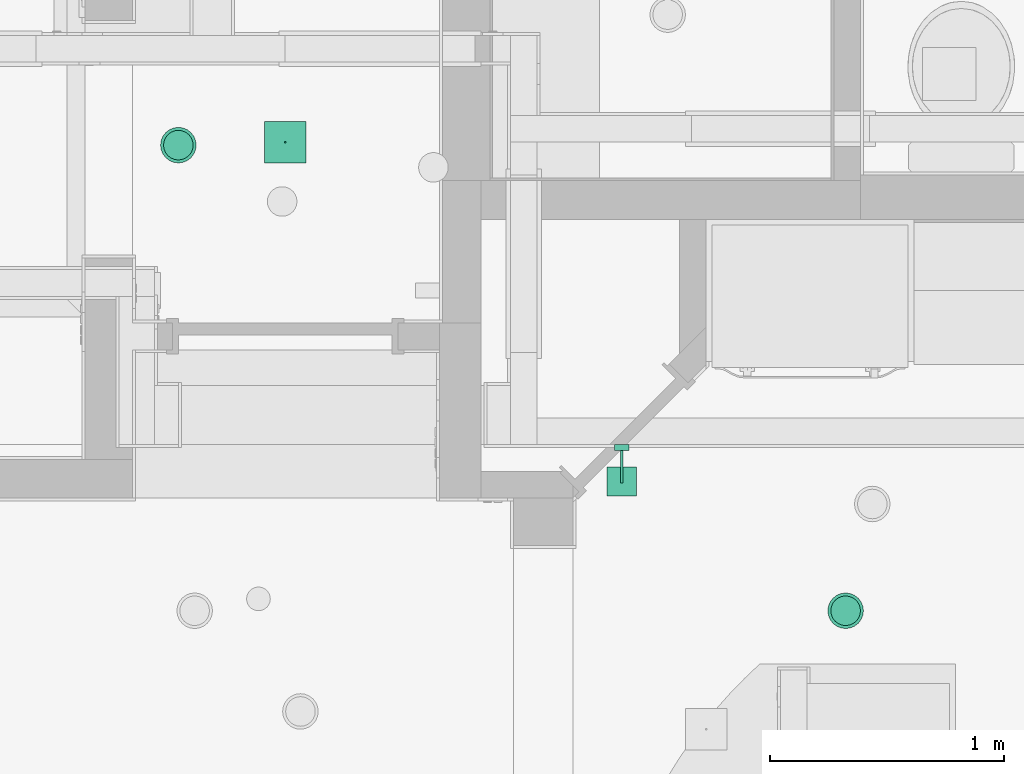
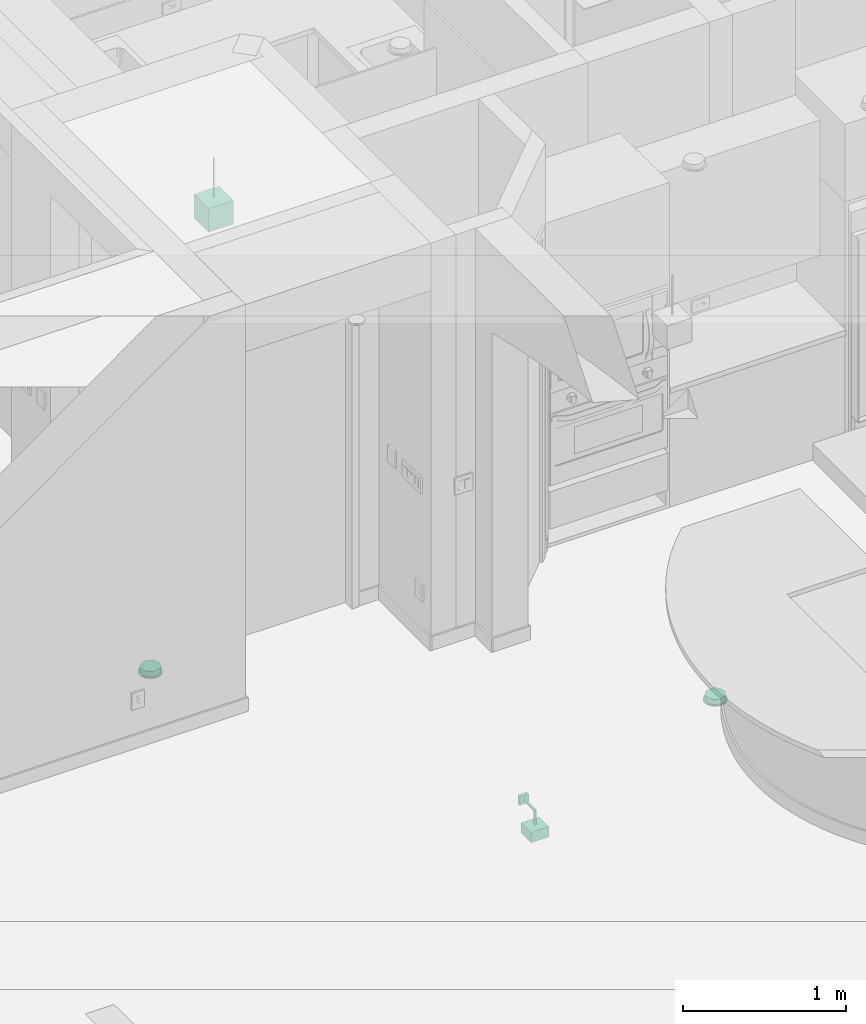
# One storey, part 39 of 60: 4 flow terminals.
"""IFC2X3 building model written with IfcOpenShell, lengths in feet."""

from ifc_helpers import new_model, entity, si_unit, converted_unit, direction, frame, origin, origin_2d_with_axis, place, context, subcontext, project, spatial, rectangle, extrude, faceted_brep, source, transform, mapped, material, material_list, type_object, type_shapes, element, save


model = new_model("IFC2X3")

# Units and contexts
model_context = context("Model", 3, precision=0.0001, world=origin(), true_north=direction((6.123031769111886e-17, 1.0)))
plan_context = context("Plan", 3, precision=0.0001, world=origin(), true_north=direction((6.123031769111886e-17, 1.0)))
body_context = subcontext(model_context, "Body", "Model", "MODEL_VIEW")
ifc_project = project(units=[converted_unit("LENGTHUNIT", "FOOT", entity("IfcLengthMeasure", 0.3048), si_unit("LENGTHUNIT", "METRE"), dimensions=[1, 0, 0, 0, 0, 0, 0]), converted_unit("AREAUNIT", "SQUARE FOOT", entity("IfcAreaMeasure", 0.09290304), si_unit("AREAUNIT", "SQUARE_METRE"), dimensions=[2, 0, 0, 0, 0, 0, 0]), converted_unit("PLANEANGLEUNIT", "DEGREE", entity("IfcPlaneAngleMeasure", 0.017453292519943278), si_unit("PLANEANGLEUNIT", "RADIAN"), dimensions=[0, 0, 0, 0, 0, 0, 0])], contexts=[model_context, plan_context])

# Site, building, storey
site_placement = place(None, origin())
site = spatial("IfcSite", under=ifc_project, at=site_placement, Name="Default", CompositionType="ELEMENT")
building_placement = place(site_placement, origin())
building = spatial("IfcBuilding", under=site, at=building_placement, CompositionType="ELEMENT")
storey_placement = place(building_placement, origin())
storey = spatial("IfcBuildingStorey", under=building, at=storey_placement, Name="First floor", CompositionType="ELEMENT", Elevation=0.0)

# Flow terminals
ifc_material_1 = material(Name="Default New Material")
ifc_material_2 = material(Name="Glass, White, High Luminance")
ifc_material_list = material_list([ifc_material_1, ifc_material_2])
light_fixture_type_1 = type_object("IfcLightFixtureType", Name="C_Spotlight Recessed:Light 2", PredefinedType="NOTDEFINED", material=ifc_material_list)
shared_shape_1 = source(origin(), body_context, "Body", "Brep", [
    faceted_brep([(-0.12499999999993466, 0.21650635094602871, 0.020833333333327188), (-0.17677669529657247, 0.17677669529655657, 0.020833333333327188), (-0.08333333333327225, 0.14433756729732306, 0.020833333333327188), (-0.04313650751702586, 0.1609876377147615, 0.020833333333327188), (-0.0647047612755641, 0.24148145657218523, 0.020833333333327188), (-0.11785113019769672, 0.11785113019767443, 0.020833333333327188), (-0.21650635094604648, 0.12499999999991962, 0.020833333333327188), (-0.1443375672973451, 0.08333333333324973, 0.020833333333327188), (-0.16098763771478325, 0.04313650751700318, 0.020833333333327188), (-0.2414814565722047, 0.06470476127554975, 0.020833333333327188), (-0.166666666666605, 0.0, 0.020833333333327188), (-0.24999999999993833, 0.0, 0.020833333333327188), (-0.16098763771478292, -0.043136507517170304, 0.020833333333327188), (-0.24148145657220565, -0.06470476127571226, 0.020833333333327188), (-0.14433756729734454, -0.08333333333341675, 0.020833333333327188), (-0.2165063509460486, -0.12500000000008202, 0.020833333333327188), (-0.117851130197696, -0.11785113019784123, 0.020833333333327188), (-0.1767766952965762, -0.17677669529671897, 0.020833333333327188), (-0.08333333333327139, -0.14433756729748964, 0.020833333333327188), (-0.12499999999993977, -0.21650635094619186, 0.020833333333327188), (-0.04313650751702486, -0.16098763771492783, 0.020833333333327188), (-0.06470476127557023, -0.24148145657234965, 0.020833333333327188), (0.0, -0.1666666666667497, 0.020833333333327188), (0.0, -0.25000000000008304, 0.020833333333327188), (0.04313650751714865, -0.1609876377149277, 0.020833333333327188), (0.06470476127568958, -0.24148145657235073, 0.020833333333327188), (0.08333333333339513, -0.1443375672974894, 0.020833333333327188), (0.12500000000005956, -0.21650635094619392, 0.020833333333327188), (0.11785113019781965, -0.11785113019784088, 0.020833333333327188), (0.1767766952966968, -0.1767766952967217, 0.020833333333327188), (0.14433756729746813, -0.0833333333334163, 0.020833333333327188), (0.21650635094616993, -0.12500000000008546, 0.020833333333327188), (0.24148145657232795, -0.06470476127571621, 0.020833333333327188), (0.16098763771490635, -0.0431365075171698, 0.020833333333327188), (0.2500000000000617, 0.0, 0.020833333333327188), (0.1666666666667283, 0.0, 0.020833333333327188), (0.24148145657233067, 0.06470476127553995, 0.020833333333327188), (0.16098763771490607, 0.04313650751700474, 0.020833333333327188), (0.21650635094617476, 0.12499999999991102, 0.020833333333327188), (0.14433756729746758, 0.08333333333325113, 0.020833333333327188), (0.17677669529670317, 0.17677669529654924, 0.020833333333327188), (0.1178511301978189, 0.11785113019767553, 0.020833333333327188), (0.1250000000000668, 0.21650635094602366, 0.020833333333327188), (0.08333333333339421, 0.14433756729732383, 0.020833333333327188), (0.06470476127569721, 0.2414814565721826, 0.020833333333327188), (0.04313650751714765, 0.16098763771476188, 0.020833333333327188), (0.0, 0.24999999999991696, 0.020833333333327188), (0.0, 0.1666666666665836, 0.020833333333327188), (-0.12499999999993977, -0.21650635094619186, 0.0), (-0.1767766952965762, -0.17677669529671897, 0.0), (-0.08333333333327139, -0.14433756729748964, 0.0), (-0.04313650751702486, -0.16098763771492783, 0.0), (-0.06470476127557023, -0.24148145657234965, 0.0), (-0.117851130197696, -0.11785113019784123, 0.0), (-0.2165063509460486, -0.12500000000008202, 0.0), (-0.14433756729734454, -0.08333333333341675, 0.0), (-0.16098763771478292, -0.043136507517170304, 0.0), (-0.24148145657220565, -0.06470476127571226, 0.0), (-0.166666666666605, 0.0, 0.0), (-0.24999999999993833, 0.0, 0.0), (-0.16098763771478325, 0.04313650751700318, 0.0), (-0.2414814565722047, 0.06470476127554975, 0.0), (-0.1443375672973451, 0.08333333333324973, 0.0), (-0.21650635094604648, 0.12499999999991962, 0.0), (-0.11785113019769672, 0.11785113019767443, 0.0), (-0.17677669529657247, 0.17677669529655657, 0.0), (-0.08333333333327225, 0.14433756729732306, 0.0), (-0.12499999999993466, 0.21650635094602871, 0.0), (-0.04313650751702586, 0.1609876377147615, 0.0), (-0.0647047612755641, 0.24148145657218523, 0.0), (0.0, 0.1666666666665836, 0.0), (0.0, 0.24999999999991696, 0.0), (0.04313650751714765, 0.16098763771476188, 0.0), (0.06470476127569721, 0.2414814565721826, 0.0), (0.08333333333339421, 0.14433756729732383, 0.0), (0.1250000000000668, 0.21650635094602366, 0.0), (0.1178511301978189, 0.11785113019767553, 0.0), (0.17677669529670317, 0.17677669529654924, 0.0), (0.14433756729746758, 0.08333333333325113, 0.0), (0.21650635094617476, 0.12499999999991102, 0.0), (0.24148145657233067, 0.06470476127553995, 0.0), (0.16098763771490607, 0.04313650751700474, 0.0), (0.2500000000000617, 0.0, 0.0), (0.1666666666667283, 0.0, 0.0), (0.24148145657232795, -0.06470476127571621, 0.0), (0.16098763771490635, -0.0431365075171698, 0.0), (0.21650635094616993, -0.12500000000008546, 0.0), (0.14433756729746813, -0.0833333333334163, 0.0), (0.1767766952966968, -0.1767766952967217, 0.0), (0.11785113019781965, -0.11785113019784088, 0.0), (0.12500000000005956, -0.21650635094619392, 0.0), (0.08333333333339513, -0.1443375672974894, 0.0), (0.06470476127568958, -0.24148145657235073, 0.0), (0.04313650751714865, -0.1609876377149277, 0.0), (0.0, -0.25000000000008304, 0.0), (0.0, -0.1666666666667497, 0.0)], [[[0, 1, 2]], [[0, 2, 3]], [[3, 4, 0]], [[2, 1, 5]], [[6, 5, 1]], [[7, 5, 6]], [[8, 7, 6]], [[8, 6, 9]], [[8, 9, 10]], [[10, 9, 11]], [[12, 10, 11]], [[12, 11, 13]], [[14, 12, 13]], [[14, 13, 15]], [[16, 14, 15]], [[15, 17, 16]], [[17, 18, 16]], [[18, 17, 19]], [[18, 19, 20]], [[21, 20, 19]], [[20, 21, 22]], [[22, 21, 23]], [[23, 24, 22]], [[24, 23, 25]], [[24, 25, 26]], [[27, 26, 25]], [[27, 28, 26]], [[27, 29, 28]], [[30, 28, 29]], [[31, 30, 29]], [[32, 30, 31]], [[33, 30, 32]], [[33, 32, 34]], [[34, 35, 33]], [[36, 35, 34]], [[36, 37, 35]], [[37, 36, 38]], [[39, 37, 38]], [[39, 38, 40]], [[39, 40, 41]], [[40, 42, 41]], [[41, 42, 43]], [[43, 42, 44]], [[44, 45, 43]], [[46, 45, 44]], [[4, 47, 46]], [[45, 46, 47]], [[4, 3, 47]], [[48, 49, 50]], [[48, 50, 51]], [[51, 52, 48]], [[50, 49, 53]], [[54, 53, 49]], [[55, 53, 54]], [[56, 55, 54]], [[56, 54, 57]], [[56, 57, 58]], [[58, 57, 59]], [[60, 58, 59]], [[60, 59, 61]], [[62, 60, 61]], [[62, 61, 63]], [[64, 62, 63]], [[63, 65, 64]], [[65, 66, 64]], [[66, 65, 67]], [[66, 67, 68]], [[69, 68, 67]], [[68, 69, 70]], [[70, 69, 71]], [[71, 72, 70]], [[72, 71, 73]], [[72, 73, 74]], [[75, 74, 73]], [[75, 76, 74]], [[75, 77, 76]], [[78, 76, 77]], [[79, 78, 77]], [[80, 78, 79]], [[81, 78, 80]], [[81, 80, 82]], [[82, 83, 81]], [[84, 83, 82]], [[84, 85, 83]], [[85, 84, 86]], [[87, 85, 86]], [[87, 86, 88]], [[87, 88, 89]], [[88, 90, 89]], [[89, 90, 91]], [[91, 90, 92]], [[92, 93, 91]], [[94, 93, 92]], [[52, 95, 94]], [[93, 94, 95]], [[52, 51, 95]], [[10, 58, 60, 8]], [[8, 60, 62, 7]], [[2, 5, 64, 66]], [[62, 64, 5, 7]], [[3, 2, 66, 68]], [[70, 47, 3, 68]], [[45, 72, 74, 43]], [[43, 74, 76, 41]], [[37, 39, 78, 81]], [[76, 78, 39, 41]], [[35, 37, 81, 83]], [[45, 47, 70, 72]], [[35, 83, 85, 33]], [[33, 85, 87, 30]], [[26, 28, 89, 91]], [[87, 89, 28, 30]], [[24, 26, 91, 93]], [[95, 22, 24, 93]], [[20, 51, 50, 18]], [[18, 50, 53, 16]], [[12, 14, 55, 56]], [[53, 55, 14, 16]], [[10, 12, 56, 58]], [[20, 22, 95, 51]], [[57, 13, 11, 59]], [[54, 15, 13, 57]], [[19, 17, 49, 48]], [[54, 49, 17, 15]], [[21, 19, 48, 52]], [[23, 21, 52, 94]], [[92, 25, 23, 94]], [[90, 27, 25, 92]], [[31, 29, 88, 86]], [[90, 88, 29, 27]], [[32, 31, 86, 84]], [[34, 32, 84, 82]], [[80, 36, 34, 82]], [[79, 38, 36, 80]], [[42, 40, 77, 75]], [[79, 77, 40, 38]], [[44, 42, 75, 73]], [[46, 44, 73, 71]], [[69, 4, 46, 71]], [[67, 0, 4, 69]], [[6, 1, 65, 63]], [[67, 65, 1, 0]], [[9, 6, 63, 61]], [[11, 9, 61, 59]]]),
    faceted_brep([(0.043136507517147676, -0.160987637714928, 0.020833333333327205), (0.08333333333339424, -0.14433756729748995, 0.020833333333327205), (0.11785113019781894, -0.11785113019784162, 0.020833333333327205), (0.14433756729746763, -0.08333333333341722, 0.020833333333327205), (0.16098763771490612, -0.043136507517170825, 0.020833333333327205), (0.16666666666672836, 0.0, 0.020833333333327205), (0.1609876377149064, 0.04313650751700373, 0.020833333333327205), (0.1443375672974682, 0.08333333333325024, 0.020833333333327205), (0.11785113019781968, 0.11785113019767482, 0.020833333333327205), (0.08333333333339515, 0.14433756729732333, 0.020833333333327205), (0.043136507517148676, 0.16098763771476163, 0.020833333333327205), (0.0, 0.16666666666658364, 0.020833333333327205), (-0.04313650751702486, 0.16098763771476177, 0.020833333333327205), (-0.08333333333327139, 0.14433756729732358, 0.020833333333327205), (-0.117851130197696, 0.11785113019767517, 0.020833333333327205), (-0.1443375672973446, 0.08333333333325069, 0.020833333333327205), (-0.16098763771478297, 0.043136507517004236, 0.020833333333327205), (-0.166666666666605, 0.0, 0.020833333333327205), (-0.1609876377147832, -0.04313650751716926, 0.020833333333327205), (-0.14433756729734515, -0.08333333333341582, 0.020833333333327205), (-0.11785113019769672, -0.11785113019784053, 0.020833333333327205), (-0.08333333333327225, -0.14433756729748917, 0.020833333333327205), (-0.04313650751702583, -0.1609876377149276, 0.020833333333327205), (0.0, -0.16666666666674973, 0.020833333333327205), (0.043136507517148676, 0.16098763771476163, 0.0), (0.08333333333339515, 0.14433756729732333, 0.0), (0.11785113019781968, 0.11785113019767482, 0.0), (0.1443375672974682, 0.08333333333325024, 0.0), (0.1609876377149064, 0.04313650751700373, 0.0), (0.16666666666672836, 0.0, 0.0), (0.16098763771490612, -0.043136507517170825, 0.0), (0.14433756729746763, -0.08333333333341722, 0.0), (0.11785113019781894, -0.11785113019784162, 0.0), (0.08333333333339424, -0.14433756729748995, 0.0), (0.043136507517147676, -0.160987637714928, 0.0), (0.0, -0.16666666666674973, 0.0), (-0.04313650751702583, -0.1609876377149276, 0.0), (-0.08333333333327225, -0.14433756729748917, 0.0), (-0.11785113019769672, -0.11785113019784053, 0.0), (-0.14433756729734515, -0.08333333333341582, 0.0), (-0.1609876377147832, -0.04313650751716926, 0.0), (-0.166666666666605, 0.0, 0.0), (-0.16098763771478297, 0.043136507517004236, 0.0), (-0.1443375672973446, 0.08333333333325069, 0.0), (-0.117851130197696, 0.11785113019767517, 0.0), (-0.08333333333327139, 0.14433756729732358, 0.0), (-0.04313650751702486, 0.16098763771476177, 0.0), (0.0, 0.16666666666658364, 0.0)], [[[0, 1, 2, 3, 4, 5, 6, 7, 8, 9, 10, 11, 12, 13, 14, 15, 16, 17, 18, 19, 20, 21, 22, 23]], [[24, 25, 26, 27, 28, 29, 30, 31, 32, 33, 34, 35, 36, 37, 38, 39, 40, 41, 42, 43, 44, 45, 46, 47]], [[40, 18, 17, 41]], [[39, 19, 18, 40]], [[21, 20, 38, 37]], [[39, 38, 20, 19]], [[22, 21, 37, 36]], [[23, 22, 36, 35]], [[34, 0, 23, 35]], [[33, 1, 0, 34]], [[3, 2, 32, 31]], [[33, 32, 2, 1]], [[4, 3, 31, 30]], [[5, 4, 30, 29]], [[28, 6, 5, 29]], [[27, 7, 6, 28]], [[9, 8, 26, 25]], [[27, 26, 8, 7]], [[10, 9, 25, 24]], [[11, 10, 24, 47]], [[46, 12, 11, 47]], [[45, 13, 12, 46]], [[15, 14, 44, 43]], [[45, 44, 14, 13]], [[16, 15, 43, 42]], [[17, 16, 42, 41]]]),
    faceted_brep([(0.0, -0.16666666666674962, -0.10416666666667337), (0.04313650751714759, -0.1609876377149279, -0.10416666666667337), (0.08333333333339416, -0.1443375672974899, -0.10416666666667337), (0.1178511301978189, -0.11785113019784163, -0.10416666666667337), (0.1443375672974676, -0.08333333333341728, -0.10416666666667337), (0.16098763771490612, -0.043136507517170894, -0.10416666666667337), (0.16666666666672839, 0.0, -0.10416666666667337), (0.16098763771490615, 0.04313650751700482, -0.10416666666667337), (0.14433756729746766, 0.08333333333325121, -0.10416666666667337), (0.11785113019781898, 0.11785113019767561, -0.10416666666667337), (0.0833333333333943, 0.14433756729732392, -0.10416666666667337), (0.04313650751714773, 0.16098763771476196, -0.10416666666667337), (0.0, 0.1666666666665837, -0.10416666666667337), (-0.043136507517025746, 0.16098763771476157, -0.10416666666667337), (-0.08333333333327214, 0.14433756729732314, -0.10416666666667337), (-0.11785113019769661, 0.11785113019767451, -0.10416666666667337), (-0.14433756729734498, 0.08333333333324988, -0.10416666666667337), (-0.16098763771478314, 0.04313650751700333, -0.10416666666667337), (-0.16666666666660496, 0.0, -0.10416666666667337), (-0.16098763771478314, -0.04313650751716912, -0.10416666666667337), (-0.1443375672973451, -0.08333333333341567, -0.10416666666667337), (-0.11785113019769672, -0.11785113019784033, -0.10416666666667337), (-0.08333333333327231, -0.14433756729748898, -0.10416666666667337), (-0.04313650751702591, -0.16098763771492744, -0.10416666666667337), (0.0, 0.20833333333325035, -0.12500000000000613), (0.053920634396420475, 0.20123454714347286, -0.12500000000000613), (0.10416666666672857, 0.18042195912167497, -0.12500000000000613), (0.14731391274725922, 0.14731391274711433, -0.12500000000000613), (0.18042195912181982, 0.1041666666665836, -0.12500000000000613), (0.2012345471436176, 0.053920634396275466, -0.12500000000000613), (0.20833333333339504, 0.0, -0.12500000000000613), (0.20123454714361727, -0.0539206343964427, -0.12500000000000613), (0.18042195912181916, -0.10416666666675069, -0.12500000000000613), (0.1473139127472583, -0.14731391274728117, -0.12500000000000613), (0.10416666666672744, -0.18042195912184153, -0.12500000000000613), (0.053920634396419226, -0.2012345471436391, -0.12500000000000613), (0.0, -0.20833333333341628, -0.12500000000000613), (-0.05392063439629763, -0.20123454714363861, -0.12500000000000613), (-0.10416666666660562, -0.18042195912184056, -0.12500000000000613), (-0.14731391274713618, -0.1473139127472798, -0.12500000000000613), (-0.18042195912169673, -0.10416666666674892, -0.12500000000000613), (-0.20123454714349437, -0.05392063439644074, -0.12500000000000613), (-0.2083333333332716, 0.0, -0.12500000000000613), (-0.20123454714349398, 0.053920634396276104, -0.12500000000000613), (-0.18042195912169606, 0.10416666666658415, -0.12500000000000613), (-0.1473139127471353, 0.14731391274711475, -0.12500000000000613), (-0.10416666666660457, 0.1804219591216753, -0.12500000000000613), (-0.05392063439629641, 0.20123454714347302, -0.12500000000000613), (-0.2012345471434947, -0.053920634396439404, -0.10416666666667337), (-0.20123454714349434, -0.053920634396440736, 0.0), (-0.20833333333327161, 0.0, 0.0), (-0.2083333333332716, 0.0, -0.10416666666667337), (-0.1804219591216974, -0.10416666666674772, -0.10416666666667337), (-0.1804219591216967, -0.10416666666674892, 0.0), (-0.10416666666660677, -0.18042195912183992, -0.10416666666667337), (-0.10416666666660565, -0.18042195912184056, 0.0), (-0.1473139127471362, -0.1473139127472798, 0.0), (-0.14731391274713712, -0.14731391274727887, -0.10416666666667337), (-0.053920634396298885, -0.20123454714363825, -0.10416666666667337), (-0.05392063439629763, -0.20123454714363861, 0.0), (0.0, -0.20833333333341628, -0.10416666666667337), (0.0, -0.20833333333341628, 0.0), (0.05392063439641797, -0.20123454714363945, -0.10416666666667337), (0.053920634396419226, -0.2012345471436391, 0.0), (0.10416666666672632, -0.1804219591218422, -0.10416666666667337), (0.10416666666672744, -0.18042195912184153, 0.0), (0.1804219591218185, -0.1041666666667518, -0.10416666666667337), (0.18042195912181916, -0.10416666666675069, 0.0), (0.1473139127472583, -0.14731391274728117, 0.0), (0.1473139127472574, -0.1473139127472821, -0.10416666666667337), (0.20123454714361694, -0.05392063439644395, -0.10416666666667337), (0.20123454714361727, -0.05392063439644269, 0.0), (0.20833333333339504, 0.0, -0.10416666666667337), (0.20833333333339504, 0.0, 0.0), (0.2012345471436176, 0.053920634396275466, -0.10416666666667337), (0.2012345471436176, 0.05392063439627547, 0.0), (0.18042195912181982, 0.1041666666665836, -0.10416666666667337), (0.18042195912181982, 0.1041666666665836, 0.0), (0.10416666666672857, 0.18042195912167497, -0.10416666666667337), (0.10416666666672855, 0.18042195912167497, 0.0), (0.14731391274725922, 0.14731391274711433, 0.0), (0.14731391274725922, 0.14731391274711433, -0.10416666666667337), (0.053920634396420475, 0.20123454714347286, -0.10416666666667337), (0.053920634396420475, 0.20123454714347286, 0.0), (0.0, 0.20833333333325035, -0.10416666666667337), (0.0, 0.20833333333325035, 0.0), (-0.05392063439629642, 0.20123454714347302, -0.10416666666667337), (-0.05392063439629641, 0.20123454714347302, 0.0), (-0.10416666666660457, 0.1804219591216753, -0.10416666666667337), (-0.10416666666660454, 0.1804219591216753, 0.0), (-0.18042195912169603, 0.10416666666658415, -0.10416666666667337), (-0.18042195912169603, 0.10416666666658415, 0.0), (-0.14731391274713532, 0.14731391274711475, 0.0), (-0.14731391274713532, 0.14731391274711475, -0.10416666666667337), (-0.20123454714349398, 0.053920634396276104, -0.10416666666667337), (-0.20123454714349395, 0.05392063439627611, 0.0), (-0.08333333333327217, 0.14433756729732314, 0.0), (-0.043136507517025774, 0.16098763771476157, 0.0), (-0.11785113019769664, 0.11785113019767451, 0.0), (-0.144337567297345, 0.08333333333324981, 0.0), (-0.16098763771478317, 0.04313650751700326, 0.0), (-0.16666666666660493, 0.0, 0.0), (-0.16098763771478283, -0.04313650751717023, 0.0), (-0.14433756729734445, -0.08333333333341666, 0.0), (-0.11785113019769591, -0.11785113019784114, 0.0), (-0.08333333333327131, -0.14433756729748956, 0.0), (-0.043136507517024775, -0.16098763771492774, 0.0), (0.0, -0.16666666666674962, 0.0), (0.04313650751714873, -0.1609876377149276, 0.0), (0.08333333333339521, -0.1443375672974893, 0.0), (0.11785113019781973, -0.1178511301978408, 0.0), (0.14433756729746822, -0.08333333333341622, 0.0), (0.16098763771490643, -0.04313650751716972, 0.0), (0.16666666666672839, 0.0, 0.0), (0.16098763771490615, 0.04313650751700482, 0.0), (0.14433756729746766, 0.08333333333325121, 0.0), (0.11785113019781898, 0.11785113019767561, 0.0), (0.0833333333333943, 0.14433756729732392, 0.0), (0.04313650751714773, 0.16098763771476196, 0.0), (0.0, 0.1666666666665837, 0.0)], [[[0, 1, 2, 3, 4, 5, 6, 7, 8, 9, 10, 11, 12, 13, 14, 15, 16, 17, 18, 19, 20, 21, 22, 23]], [[24, 25, 26, 27, 28, 29, 30, 31, 32, 33, 34, 35, 36, 37, 38, 39, 40, 41, 42, 43, 44, 45, 46, 47]], [[41, 48, 49, 50, 51, 42]], [[40, 52, 53, 49, 48, 41]], [[54, 55, 56, 57, 39, 38]], [[40, 39, 57, 56, 53, 52]], [[58, 59, 55, 54, 38, 37]], [[60, 61, 59, 58, 37, 36]], [[35, 62, 63, 61, 60, 36]], [[34, 64, 65, 63, 62, 35]], [[66, 67, 68, 69, 33, 32]], [[34, 33, 69, 68, 65, 64]], [[70, 71, 67, 66, 32, 31]], [[72, 73, 71, 70, 31, 30]], [[29, 74, 75, 73, 72, 30]], [[28, 76, 77, 75, 74, 29]], [[78, 79, 80, 81, 27, 26]], [[28, 27, 81, 80, 77, 76]], [[82, 83, 79, 78, 26, 25]], [[84, 85, 83, 82, 25, 24]], [[47, 86, 87, 85, 84, 24]], [[46, 88, 89, 87, 86, 47]], [[90, 91, 92, 93, 45, 44]], [[46, 45, 93, 92, 89, 88]], [[94, 95, 91, 90, 44, 43]], [[51, 50, 95, 94, 43, 42]], [[89, 92, 96]], [[89, 96, 97]], [[97, 87, 89]], [[96, 92, 98]], [[91, 98, 92]], [[99, 98, 91]], [[100, 99, 91]], [[100, 91, 95]], [[100, 95, 101]], [[101, 95, 50]], [[102, 101, 50]], [[102, 50, 49]], [[103, 102, 49]], [[103, 49, 53]], [[104, 103, 53]], [[53, 56, 104]], [[56, 105, 104]], [[105, 56, 55]], [[105, 55, 106]], [[59, 106, 55]], [[106, 59, 107]], [[107, 59, 61]], [[61, 108, 107]], [[108, 61, 63]], [[108, 63, 109]], [[65, 109, 63]], [[65, 110, 109]], [[65, 68, 110]], [[111, 110, 68]], [[67, 111, 68]], [[71, 111, 67]], [[112, 111, 71]], [[112, 71, 73]], [[73, 113, 112]], [[75, 113, 73]], [[75, 114, 113]], [[114, 75, 77]], [[115, 114, 77]], [[115, 77, 80]], [[115, 80, 116]], [[80, 79, 116]], [[116, 79, 117]], [[117, 79, 83]], [[83, 118, 117]], [[85, 118, 83]], [[87, 119, 85]], [[85, 119, 118]], [[87, 97, 119]], [[113, 6, 5, 112]], [[112, 5, 4, 111]], [[109, 110, 3, 2]], [[4, 3, 110, 111]], [[108, 109, 2, 1]], [[0, 107, 108, 1]], [[104, 105, 22, 21]], [[23, 22, 105, 106]], [[102, 103, 20, 19]], [[104, 21, 20, 103]], [[102, 19, 18, 101]], [[0, 23, 106, 107]], [[101, 18, 17, 100]], [[100, 17, 16, 99]], [[96, 98, 15, 14]], [[16, 15, 98, 99]], [[97, 96, 14, 13]], [[12, 119, 97, 13]], [[118, 11, 10, 117]], [[117, 10, 9, 116]], [[114, 115, 8, 7]], [[9, 8, 115, 116]], [[113, 114, 7, 6]], [[118, 119, 12, 11]]]),
])
type_shapes(light_fixture_type_1, [shared_shape_1])
for number, where, z_axis, x_axis, name in (
    (1, (4.374999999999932, 27.458333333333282, 8.416666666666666), (0.0, 0.0, -1.0), (0.0, -1.0, 0.0), "C_Spotlight Recessed:Light 2"),
    (2, (-5.0, 34.0, 8.416666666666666), (0.0, 0.0, -1.0), (0.0, -1.0, 0.0), "C_Spotlight Recessed:Light 2"),
):
    element("IfcFlowTerminal", number, at=place(storey_placement, frame(where, z_axis=z_axis, x_axis=x_axis)), inside=storey, type_object=light_fixture_type_1, material=ifc_material_list, Name=name, ObjectType="C_Spotlight Recessed:Light 2", context=body_context, shape_type="MappedRepresentation", body=[
        mapped(shared_shape_1, transform((0.0, 0.0, 0.0), scale=1.0)),
    ])
light_fixture_type_2 = type_object("IfcLightFixtureType", Name="C_Ceiling Lamp:C_Ceiling Lamp", PredefinedType="NOTDEFINED", material=ifc_material_1)
shared_shape_2 = source(origin(), body_context, "Body", "SweptSolid", [
    extrude(rectangle(XDim=0.5833333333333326, YDim=0.5833333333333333, at=origin_2d_with_axis()), frame((0.0, 0.0, -14.06250000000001), z_axis=(0.0, 0.0, 1.0), x_axis=(0.0, 1.0, 0.0)), (0.0, 0.0, 1.0), 0.5833333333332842),
    extrude(rectangle(XDim=0.02140587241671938, YDim=0.02083333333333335, at=origin_2d_with_axis()), frame((0.0, 0.0, -13.479166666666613), z_axis=(0.0, 0.0, 1.0), x_axis=(0.0, 1.0, 0.0)), (0.0, 0.0, 1.0), 0.9791666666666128),
])
type_shapes(light_fixture_type_2, [shared_shape_2])
flow_terminal_1_placement = place(storey_placement, frame((-3.5000000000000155, 34.04166666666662, 33.0)))
element("IfcFlowTerminal", 3, at=flow_terminal_1_placement, inside=storey, type_object=light_fixture_type_2, material=ifc_material_1, Name="C_Ceiling Lamp:C_Ceiling Lamp", ObjectType="C_Ceiling Lamp:C_Ceiling Lamp", context=body_context, shape_type="MappedRepresentation", body=[
    mapped(shared_shape_2, transform((0.0, 0.0, 0.0), scale=1.0)),
])
light_fixture_type_3 = type_object("IfcLightFixtureType", Name="C_Sconce Downwards:33700 ICARIA White ceiling fan / Wood Blade", PredefinedType="NOTDEFINED", material=ifc_material_1)
shared_shape_3 = source(origin(), body_context, "Body", "Brep", [
    faceted_brep([(-0.10416666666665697, -0.10416666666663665, 0.08333333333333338), (0.10416666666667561, -0.10416666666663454, 0.08333333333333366), (0.1041666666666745, 0.10416666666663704, 0.0833333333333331), (-0.1041666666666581, 0.1041666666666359, 0.08333333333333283), (0.020833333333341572, 0.020833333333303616, 0.08333333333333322), (0.020833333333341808, -0.02083333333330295, 0.08333333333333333), (-0.020833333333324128, -0.020833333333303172, 0.08333333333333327), (-0.020833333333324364, 0.020833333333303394, 0.08333333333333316), (-0.10416666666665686, -0.10416666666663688, 0.0), (-0.10416666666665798, 0.10416666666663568, 0.0), (0.10416666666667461, 0.10416666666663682, 0.0), (0.10416666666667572, -0.10416666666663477, 0.0), (0.020833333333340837, 0.020833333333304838, 0.5416666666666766), (0.02083333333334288, -0.3541666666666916, 0.5416666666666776), (0.02083333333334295, -0.3541666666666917, 0.500000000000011), (0.02083333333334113, -0.02083333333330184, 0.5000000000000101), (-0.020833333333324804, -0.020833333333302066, 0.50000000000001), (-0.020833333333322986, -0.35416666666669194, 0.5000000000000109), (-0.020833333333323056, -0.35416666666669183, 0.5416666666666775), (-0.0208333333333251, 0.020833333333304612, 0.5416666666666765)], [[[0, 1, 2, 3], [4, 5, 6, 7]], [[8, 9, 10, 11]], [[0, 3, 9, 8]], [[3, 2, 10, 9]], [[2, 1, 11, 10]], [[1, 0, 8, 11]], [[12, 13, 14, 15, 5, 4]], [[16, 17, 18, 19, 7, 6]], [[15, 16, 6, 5]], [[19, 12, 4, 7]], [[13, 12, 19, 18]], [[14, 13, 18, 17]], [[15, 14, 17, 16]]]),
    faceted_brep([(0.20833333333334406, -0.3541666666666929, 0.31600321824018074), (0.2083333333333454, -0.6041666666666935, 0.3160032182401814), (-0.20833333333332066, -0.6041666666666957, 0.3160032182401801), (-0.20833333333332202, -0.35416666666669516, 0.3160032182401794), (0.20833333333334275, -0.35416666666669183, 0.7205016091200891), (-0.2083333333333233, -0.3541666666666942, 0.7205016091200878), (-0.20833333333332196, -0.6041666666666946, 0.7205016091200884), (0.20833333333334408, -0.6041666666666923, 0.7205016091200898)], [[[0, 1, 2, 3]], [[4, 5, 6, 7]], [[4, 7, 1, 0]], [[7, 6, 2, 1]], [[6, 5, 3, 2]], [[5, 4, 0, 3]]]),
])
type_shapes(light_fixture_type_3, [shared_shape_3])
flow_terminal_2_placement = place(storey_placement, frame((1.2293522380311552, 29.79166666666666, 5.666666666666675), z_axis=(0.0, -1.0, 0.0), x_axis=(1.0, 0.0, 0.0)))
element("IfcFlowTerminal", 4, at=flow_terminal_2_placement, inside=storey, type_object=light_fixture_type_3, material=ifc_material_1, Name="C_Sconce Downwards:33700 ICARIA White ceiling fan / Wood Blade", ObjectType="C_Sconce Downwards:33700 ICARIA White ceiling fan / Wood Blade", context=body_context, shape_type="MappedRepresentation", body=[
    mapped(shared_shape_3, transform((0.0, 0.0, 0.0), scale=1.0)),
])

save(model, "model.ifc")
